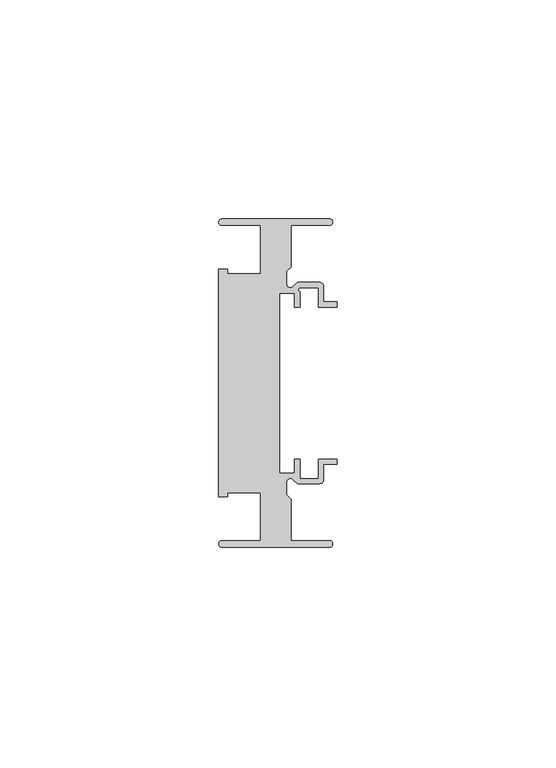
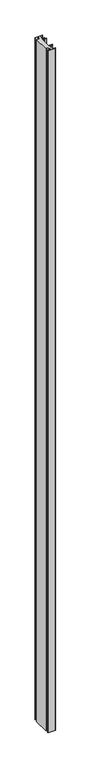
"""IFC4 building model written with IfcOpenShell, lengths in millimetres: member geometry, Прямоугольный импост : 7-AMG-2-Профиль 26Х75 Верх П."""

from ifc_helpers import new_model, si_unit, point, frame, frame_2d, origin, place, context, project, spatial, polyline, circle_curve, trimmed, segment, composite_curve, outline, extrude, source, transform, mapped, element, save


def member_74cfcd0e(model_context):
    return source(origin(), model_context, "Body", "SweptSolid", [
        extrude(outline(composite_curve([segment(polyline([(-1.7, -37.5), (-26.25, -37.5)]), True, "CONTINUOUS"), segment(trimmed(circle_curve(frame_2d((-26.25, -36.75)), 0.75), [point((-26.25, -37.5))], [point((-26.25, -36.0))], False, "CARTESIAN"), True, "CONTINUOUS"), segment(polyline([(-26.25, -36.0), (-17.5, -36.0), (-17.5, -25.0), (-24.9359877, -25.0), (-24.9359877, -26.0), (-27.0, -26.0), (-27.0, 26.0), (-24.9359877, 26.0), (-24.9359877, 25.0), (-17.5, 25.0), (-17.5, 36.0), (-26.25, 36.0)]), True, "CONTINUOUS"), segment(trimmed(circle_curve(frame_2d((-26.25, 36.75)), 0.75), [point((-26.25, 36.0))], [point((-26.25, 37.5))], False, "CARTESIAN"), True, "CONTINUOUS"), segment(polyline([(-26.25, 37.5), (-1.7, 37.5)]), True, "CONTINUOUS"), segment(trimmed(circle_curve(frame_2d((-1.7, 36.75)), 0.75), [point((-1.7, 37.5))], [point((-1.7, 36.0))], False, "CARTESIAN"), True, "CONTINUOUS"), segment(polyline([(-1.7, 36.0), (-10.5, 36.0), (-10.5, 26.5029437), (-11.5, 25.5029437), (-11.5, 22.6727922)]), True, "CONTINUOUS"), segment(trimmed(circle_curve(frame_2d((-10.6, 22.6727922)), 0.9), [point((-11.5, 22.6727922))], [point((-9.9636039, 22.0363961))], True, "CARTESIAN"), True, "CONTINUOUS"), segment(polyline([(-9.9636039, 22.0363961), (-9.0, 23.0), (-4.0, 23.0)]), True, "CONTINUOUS"), segment(trimmed(circle_curve(frame_2d((-4.0, 22.0)), 1.0), [point((-4.0, 23.0))], [point((-3.0, 22.0))], False, "CARTESIAN"), True, "CONTINUOUS"), segment(polyline([(-3.0, 22.0), (-3.0, 18.55), (0.0, 18.55), (0.0, 17.35), (-4.2, 17.35), (-4.2, 21.8), (-8.5029437, 21.8)]), True, "CONTINUOUS"), segment(trimmed(circle_curve(frame_2d((-8.3343131, 21.3314262)), 0.4979937), [point((-8.5029437, 21.8))], [point((-8.45, 20.8470563))], True, "CARTESIAN"), True, "CONTINUOUS"), segment(polyline([(-8.45, 20.8470563), (-8.45, 17.35), (-9.65, 17.35), (-9.65, 20.55), (-13.15, 20.55), (-13.15, -20.55), (-9.65, -20.55), (-9.65, -17.35), (-8.45, -17.35), (-8.45, -21.8), (-4.2, -21.8), (-4.2, -17.35), (0.0, -17.35), (0.0, -18.55), (-3.0, -18.55), (-3.0, -22.0)]), True, "CONTINUOUS"), segment(trimmed(circle_curve(frame_2d((-4.0, -22.0)), 1.0), [point((-3.0, -22.0))], [point((-4.0, -23.0))], False, "CARTESIAN"), True, "CONTINUOUS"), segment(polyline([(-4.0, -23.0), (-9.0, -23.0), (-9.9636039, -22.0363961)]), True, "CONTINUOUS"), segment(trimmed(circle_curve(frame_2d((-10.6, -22.6727922)), 0.9), [point((-9.9636039, -22.0363961))], [point((-11.5, -22.6727922))], True, "CARTESIAN"), True, "CONTINUOUS"), segment(polyline([(-11.5, -22.6727922), (-11.5, -25.5029437), (-10.5, -26.5029437), (-10.5, -36.0), (-1.7, -36.0)]), True, "CONTINUOUS"), segment(trimmed(circle_curve(frame_2d((-1.7, -36.75)), 0.75), [point((-1.7, -36.0))], [point((-1.7, -37.5))], False, "CARTESIAN"), True, "CONTINUOUS")], self_intersect=False)), frame((0.0, 0.0, -2373.0), z_axis=(0.0, 0.0, 1.0), x_axis=(1.0, 0.0, 0.0)), (0.0, 0.0, 1.0), 2373.0),
    ])


if __name__ == "__main__":
    model = new_model("IFC4")
    model_context = context("Model", 3, world=origin())
    ifc_project = project(units=[si_unit("LENGTHUNIT", "METRE", prefix="MILLI")], contexts=[model_context])
    site = spatial("IfcSite", under=ifc_project)
    building = spatial("IfcBuilding", under=site)
    placement = place(None, origin())
    member_shape = member_74cfcd0e(model_context)
    element("IfcMember", 1, ObjectType="Прямоугольный импост : 7-AMG-2-Профиль 26Х75 Верх П", at=placement, inside=building, context=model_context, shape_type="MappedRepresentation", body=[
        mapped(member_shape, transform((0.0, 0.0, 0.0), x_axis=(1.0, 0.0, 0.0), y_axis=(0.0, 1.0, 0.0), z_axis=(0.0, 0.0, 1.0))),
    ])
    save(model, "model.ifc")
